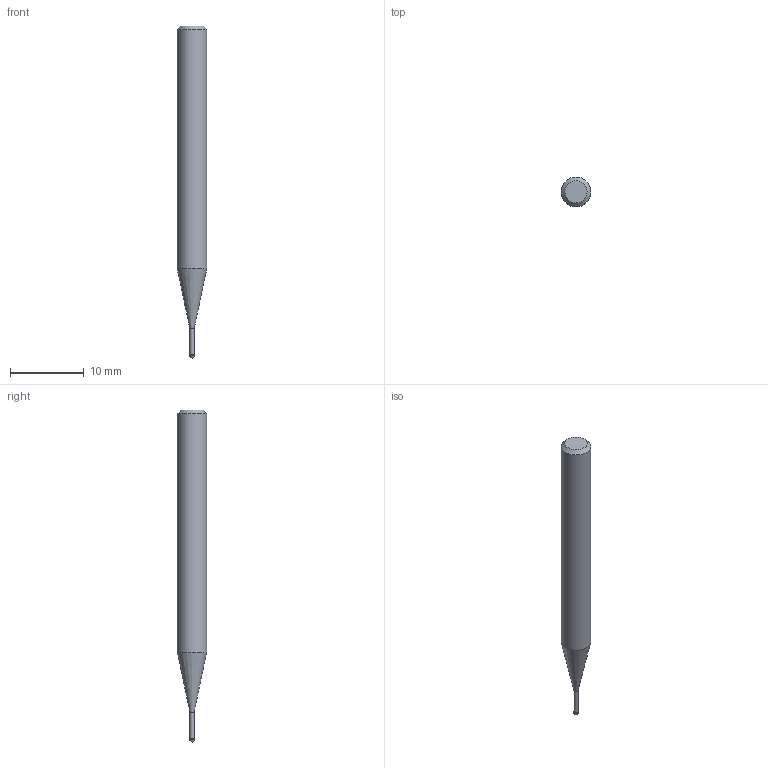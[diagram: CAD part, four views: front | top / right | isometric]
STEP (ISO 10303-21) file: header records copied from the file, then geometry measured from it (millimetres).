
FILE_DESCRIPTION((''),'2;1');
FILE_NAME('C:\Users\nsx150\AppData\Local\Temp\Mastercam 2021\ARV7HD45SN\TEMP.step','2023-06-13T16:34:07',(''),(''),'STEP Write','Mastercam 2021 ... CNC Software, Inc.','');
FILE_SCHEMA(('AUTOMOTIVE_DESIGN'));
Length unit declared in the file: millimetre
Products named in the file (1): None
Bounding box: 4 x 4 x 45 mm (x, y, z)
Volume: 452.4 mm3; surface area: 489 mm2
Topology: 2 solids, 2 shells, 9 faces, 14 edges, 8 vertices
Faces by surface type: plane 3, cylinder 3, cone 2, sphere 1
Full cylindrical faces by diameter (mm): 0.56 x1, 0.6 x1, 4 x1
Entity records: 211 total; most frequent: DIRECTION 36, CARTESIAN_POINT 25, AXIS2_PLACEMENT_3D 18, ORIENTED_EDGE 14, EDGE_LOOP 14, STYLED_ITEM 12, ADVANCED_FACE 9, FACE_BOUND 8
